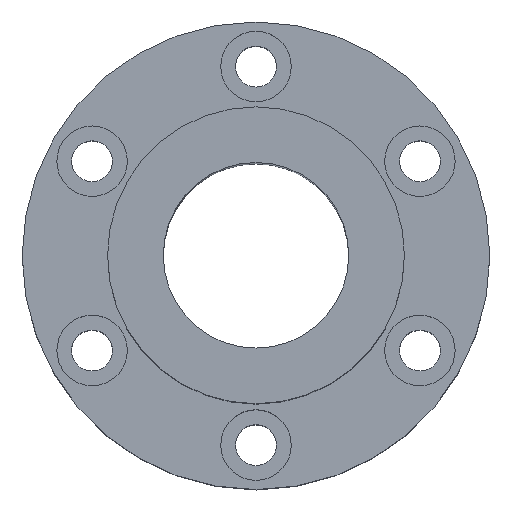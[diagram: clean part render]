
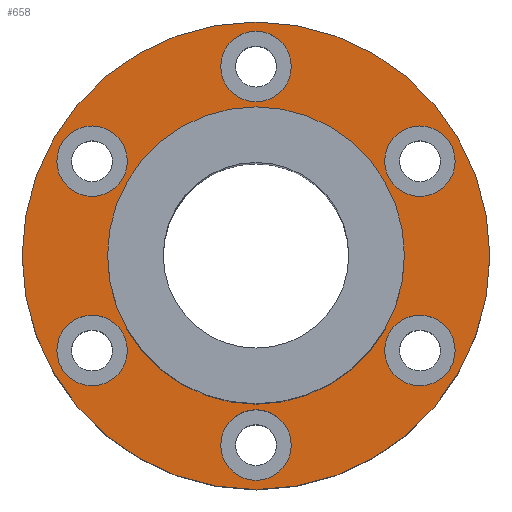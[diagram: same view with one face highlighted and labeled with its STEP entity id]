
A CAD part, top view. The second image highlights one B-rep face of the part: STEP entity #658.
In plain terms, the highlighted planar face has unit normal (0, 0, 1).
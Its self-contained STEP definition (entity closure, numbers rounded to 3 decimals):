
#1=CARTESIAN_POINT('',(0.,0.,15.));
#2=DIRECTION('',(0.,0.,1.));
#3=DIRECTION('',(1.,0.,0.));
#4=AXIS2_PLACEMENT_3D('',#1,#2,#3);
#6=CARTESIAN_POINT('',(0.,0.,15.));
#7=DIRECTION('',(0.,0.,1.));
#8=DIRECTION('',(-1.,0.,0.));
#9=AXIS2_PLACEMENT_3D('',#6,#7,#8);
#11=CARTESIAN_POINT('',(22.084,-12.75,15.));
#12=DIRECTION('',(0.,0.,-1.));
#13=DIRECTION('',(-0.5,-0.866,0.));
#14=AXIS2_PLACEMENT_3D('',#11,#12,#13);
#16=CARTESIAN_POINT('',(22.084,-12.75,15.));
#17=DIRECTION('',(0.,0.,-1.));
#18=DIRECTION('',(0.5,0.866,0.));
#19=AXIS2_PLACEMENT_3D('',#16,#17,#18);
#21=CARTESIAN_POINT('',(-22.084,-12.75,15.));
#22=DIRECTION('',(0.,0.,-1.));
#23=DIRECTION('',(-0.5,0.866,0.));
#24=AXIS2_PLACEMENT_3D('',#21,#22,#23);
#26=CARTESIAN_POINT('',(-22.084,-12.75,15.));
#27=DIRECTION('',(0.,0.,-1.));
#28=DIRECTION('',(0.5,-0.866,0.));
#29=AXIS2_PLACEMENT_3D('',#26,#27,#28);
#31=CARTESIAN_POINT('',(0.,25.5,15.));
#32=DIRECTION('',(0.,0.,-1.));
#33=DIRECTION('',(1.,0.,0.));
#34=AXIS2_PLACEMENT_3D('',#31,#32,#33);
#36=CARTESIAN_POINT('',(0.,25.5,15.));
#37=DIRECTION('',(0.,0.,-1.));
#38=DIRECTION('',(-1.,0.,0.));
#39=AXIS2_PLACEMENT_3D('',#36,#37,#38);
#41=CARTESIAN_POINT('',(0.,0.,15.));
#42=DIRECTION('',(0.,0.,-1.));
#43=DIRECTION('',(1.,0.,0.));
#44=AXIS2_PLACEMENT_3D('',#41,#42,#43);
#46=CARTESIAN_POINT('',(0.,0.,15.));
#47=DIRECTION('',(0.,0.,-1.));
#48=DIRECTION('',(-1.,0.,0.));
#49=AXIS2_PLACEMENT_3D('',#46,#47,#48);
#51=CARTESIAN_POINT('',(-22.084,12.75,15.));
#52=DIRECTION('',(0.,0.,-1.));
#53=DIRECTION('',(0.5,0.866,0.));
#54=AXIS2_PLACEMENT_3D('',#51,#52,#53);
#56=CARTESIAN_POINT('',(-22.084,12.75,15.));
#57=DIRECTION('',(0.,0.,-1.));
#58=DIRECTION('',(-0.5,-0.866,0.));
#59=AXIS2_PLACEMENT_3D('',#56,#57,#58);
#61=CARTESIAN_POINT('',(0.,-25.5,15.));
#62=DIRECTION('',(0.,0.,-1.));
#63=DIRECTION('',(-1.,0.,0.));
#64=AXIS2_PLACEMENT_3D('',#61,#62,#63);
#66=CARTESIAN_POINT('',(0.,-25.5,15.));
#67=DIRECTION('',(0.,0.,-1.));
#68=DIRECTION('',(1.,0.,0.));
#69=AXIS2_PLACEMENT_3D('',#66,#67,#68);
#71=CARTESIAN_POINT('',(22.084,12.75,15.));
#72=DIRECTION('',(0.,0.,-1.));
#73=DIRECTION('',(0.5,-0.866,0.));
#74=AXIS2_PLACEMENT_3D('',#71,#72,#73);
#76=CARTESIAN_POINT('',(22.084,12.75,15.));
#77=DIRECTION('',(0.,0.,-1.));
#78=DIRECTION('',(-0.5,0.866,0.));
#79=AXIS2_PLACEMENT_3D('',#76,#77,#78);
#533=CARTESIAN_POINT('',(-31.5,0.,15.));
#535=VERTEX_POINT('',#533);
#537=CARTESIAN_POINT('',(31.5,0.,15.));
#539=VERTEX_POINT('',#537);
#541=CARTESIAN_POINT('',(4.75,25.5,15.));
#543=VERTEX_POINT('',#541);
#545=CARTESIAN_POINT('',(-4.75,25.5,15.));
#547=VERTEX_POINT('',#545);
#549=CARTESIAN_POINT('',(-19.709,16.864,15.));
#551=VERTEX_POINT('',#549);
#553=CARTESIAN_POINT('',(-24.459,8.636,15.));
#555=VERTEX_POINT('',#553);
#557=CARTESIAN_POINT('',(-24.459,-8.636,15.));
#559=VERTEX_POINT('',#557);
#561=CARTESIAN_POINT('',(-19.709,-16.864,15.));
#563=VERTEX_POINT('',#561);
#565=CARTESIAN_POINT('',(-4.75,-25.5,15.));
#567=VERTEX_POINT('',#565);
#569=CARTESIAN_POINT('',(4.75,-25.5,15.));
#571=VERTEX_POINT('',#569);
#573=CARTESIAN_POINT('',(19.709,-16.864,15.));
#575=VERTEX_POINT('',#573);
#577=CARTESIAN_POINT('',(24.459,-8.636,15.));
#579=VERTEX_POINT('',#577);
#581=CARTESIAN_POINT('',(24.459,8.636,15.));
#583=VERTEX_POINT('',#581);
#585=CARTESIAN_POINT('',(19.709,16.864,15.));
#587=VERTEX_POINT('',#585);
#598=CARTESIAN_POINT('',(20.,0.,15.));
#600=VERTEX_POINT('',#598);
#602=CARTESIAN_POINT('',(-20.,0.,15.));
#604=VERTEX_POINT('',#602);
#605=CARTESIAN_POINT('',(0.,0.,15.));
#606=DIRECTION('',(0.,0.,1.));
#607=DIRECTION('',(1.,0.,0.));
#608=AXIS2_PLACEMENT_3D('',#605,#606,#607);
#609=PLANE('',#608);
#611=ORIENTED_EDGE('',*,*,#610,.F.);
#613=ORIENTED_EDGE('',*,*,#612,.F.);
#614=EDGE_LOOP('',(#611,#613));
#615=FACE_OUTER_BOUND('',#614,.F.);
#617=ORIENTED_EDGE('',*,*,#616,.F.);
#619=ORIENTED_EDGE('',*,*,#618,.F.);
#620=EDGE_LOOP('',(#617,#619));
#621=FACE_BOUND('',#620,.F.);
#623=ORIENTED_EDGE('',*,*,#622,.F.);
#625=ORIENTED_EDGE('',*,*,#624,.F.);
#626=EDGE_LOOP('',(#623,#625));
#627=FACE_BOUND('',#626,.F.);
#629=ORIENTED_EDGE('',*,*,#628,.F.);
#631=ORIENTED_EDGE('',*,*,#630,.F.);
#632=EDGE_LOOP('',(#629,#631));
#633=FACE_BOUND('',#632,.F.);
#635=ORIENTED_EDGE('',*,*,#634,.F.);
#637=ORIENTED_EDGE('',*,*,#636,.F.);
#638=EDGE_LOOP('',(#635,#637));
#639=FACE_BOUND('',#638,.F.);
#641=ORIENTED_EDGE('',*,*,#640,.F.);
#643=ORIENTED_EDGE('',*,*,#642,.F.);
#644=EDGE_LOOP('',(#641,#643));
#645=FACE_BOUND('',#644,.F.);
#647=ORIENTED_EDGE('',*,*,#646,.F.);
#649=ORIENTED_EDGE('',*,*,#648,.F.);
#650=EDGE_LOOP('',(#647,#649));
#651=FACE_BOUND('',#650,.F.);
#653=ORIENTED_EDGE('',*,*,#652,.F.);
#655=ORIENTED_EDGE('',*,*,#654,.F.);
#656=EDGE_LOOP('',(#653,#655));
#657=FACE_BOUND('',#656,.F.);
#658=ADVANCED_FACE('',(#615,#621,#627,#633,#639,#645,#651,#657),#609,.T.);
#5=CIRCLE('',#4,31.5);
#10=CIRCLE('',#9,31.5);
#15=CIRCLE('',#14,4.75);
#20=CIRCLE('',#19,4.75);
#25=CIRCLE('',#24,4.75);
#30=CIRCLE('',#29,4.75);
#35=CIRCLE('',#34,4.75);
#40=CIRCLE('',#39,4.75);
#45=CIRCLE('',#44,20.);
#50=CIRCLE('',#49,20.);
#55=CIRCLE('',#54,4.75);
#60=CIRCLE('',#59,4.75);
#65=CIRCLE('',#64,4.75);
#70=CIRCLE('',#69,4.75);
#75=CIRCLE('',#74,4.75);
#80=CIRCLE('',#79,4.75);
#610=EDGE_CURVE('',#539,#535,#5,.T.);
#612=EDGE_CURVE('',#535,#539,#10,.T.);
#616=EDGE_CURVE('',#575,#579,#15,.T.);
#618=EDGE_CURVE('',#579,#575,#20,.T.);
#622=EDGE_CURVE('',#559,#563,#25,.T.);
#624=EDGE_CURVE('',#563,#559,#30,.T.);
#628=EDGE_CURVE('',#543,#547,#35,.T.);
#630=EDGE_CURVE('',#547,#543,#40,.T.);
#634=EDGE_CURVE('',#600,#604,#45,.T.);
#636=EDGE_CURVE('',#604,#600,#50,.T.);
#640=EDGE_CURVE('',#551,#555,#55,.T.);
#642=EDGE_CURVE('',#555,#551,#60,.T.);
#646=EDGE_CURVE('',#567,#571,#65,.T.);
#648=EDGE_CURVE('',#571,#567,#70,.T.);
#652=EDGE_CURVE('',#583,#587,#75,.T.);
#654=EDGE_CURVE('',#587,#583,#80,.T.);
